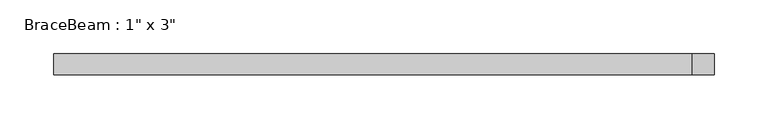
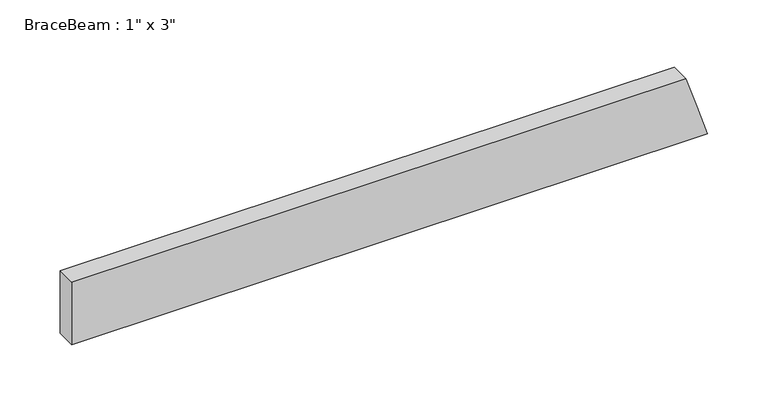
"""IFC4 building model written with IfcOpenShell, lengths in millimetres: beam geometry."""

from ifc_helpers import new_model, si_unit, origin, place, context, project, spatial, faceted_brep, source, transform, mapped, element, save


def beam_de9683ee(model_context):
    return source(origin(), model_context, "Body", "Brep", [
        faceted_brep([(-301.3959413, 9.525, -31.75), (310.1104188, 9.525, -31.75), (310.1104188, -9.525, -31.75), (-301.3959413, -9.525, -31.75), (299.7475715, -9.525, 0.0), (289.3847243, -9.525, 31.75), (-301.3959413, -9.525, 31.75), (289.3847243, 9.525, 31.75), (-301.3959413, 9.525, 31.75), (299.7475715, 9.525, 0.0)], [[[0, 1, 2, 3]], [[3, 2, 4, 5, 6]], [[6, 5, 7, 8]], [[8, 7, 9, 1, 0]], [[8, 0, 3, 6]], [[5, 4, 2, 1, 9, 7]]]),
    ])


if __name__ == "__main__":
    model = new_model("IFC4")
    model_context = context("Model", 3, world=origin())
    ifc_project = project(units=[si_unit("LENGTHUNIT", "METRE", prefix="MILLI")], contexts=[model_context])
    site = spatial("IfcSite", under=ifc_project)
    building = spatial("IfcBuilding", under=site)
    placement = place(None, origin())
    beam_shape = beam_de9683ee(model_context)
    element("IfcBeam", 1, ObjectType="BraceBeam : 1\" x 3\"", at=placement, inside=building, context=model_context, shape_type="MappedRepresentation", body=[
        mapped(beam_shape, transform((0.0, 0.0, 0.0), x_axis=(1.0, 0.0, 0.0), y_axis=(0.0, 1.0, 0.0), z_axis=(0.0, 0.0, 1.0))),
    ])
    save(model, "model.ifc")
